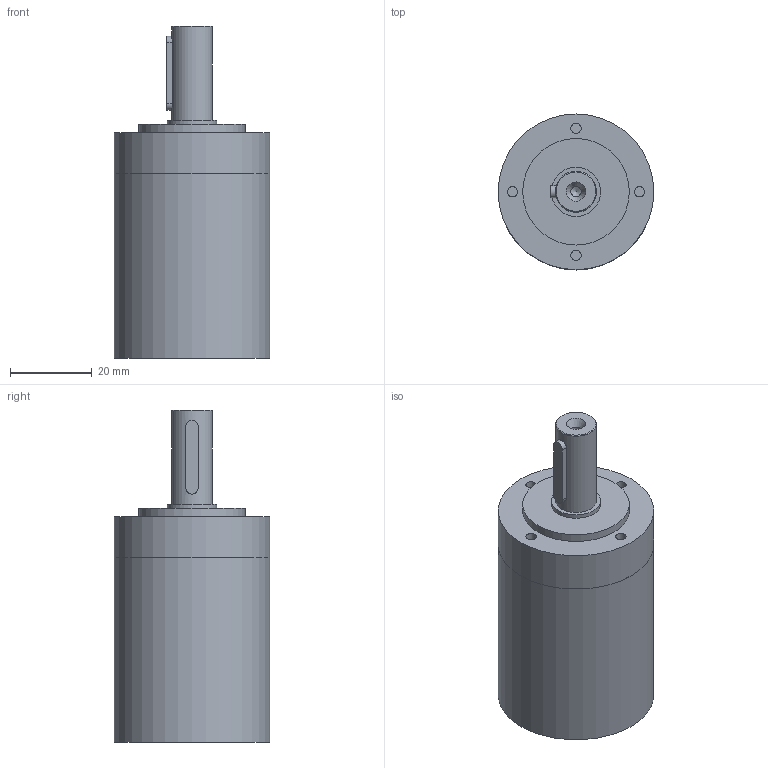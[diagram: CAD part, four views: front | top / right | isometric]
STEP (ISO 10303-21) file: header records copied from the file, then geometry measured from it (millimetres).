
FILE_DESCRIPTION(/* description */ (''),/* implementation_level */ '2;1');
FILE_NAME(/* name */ '38-A_2.stp',/* time_stamp */ '2016-09-16T12:03:46+02:00',/* author */ ('DR. FRITZ FAULHABER GmbH & Co. KG'),/* organization */ ('DR. FRITZ FAULHABER GmbH & Co. KG'),/* preprocessor_version */ 'ST-DEVELOPER v16',/* originating_system */ 'SIEMENS PLM Software NX 10.0',/* authorisation */ '');
FILE_SCHEMA (('AUTOMOTIVE_DESIGN { 1 0 10303 214 3 1 1 1 }'));
Length unit declared in the file: millimetre
Products named in the file (1): huge19E82220l2q8
Bounding box: 38 x 38 x 81 mm (x, y, z)
Volume: 52437.6 mm3; surface area: 11830.5 mm2
Topology: 1 solids, 1 shells, 40 faces, 72 edges, 48 vertices
Faces by surface type: plane 19, cylinder 18, cone 3
Full cylindrical faces by diameter (mm): 2.5 x5, 10 x1, 12 x1, 17.88 x1, 18.28 x1, 26 x1, 32.6 x1, 33.3 x1, 35.459 x1, 37.99 x1, 38 x2
Entity records: 930 total; most frequent: CARTESIAN_POINT 190, DIRECTION 162, ORIENTED_EDGE 92, AXIS2_PLACEMENT_3D 77, EDGE_LOOP 74, FACE_BOUND 65, EDGE_CURVE 46, VERTEX_POINT 43
